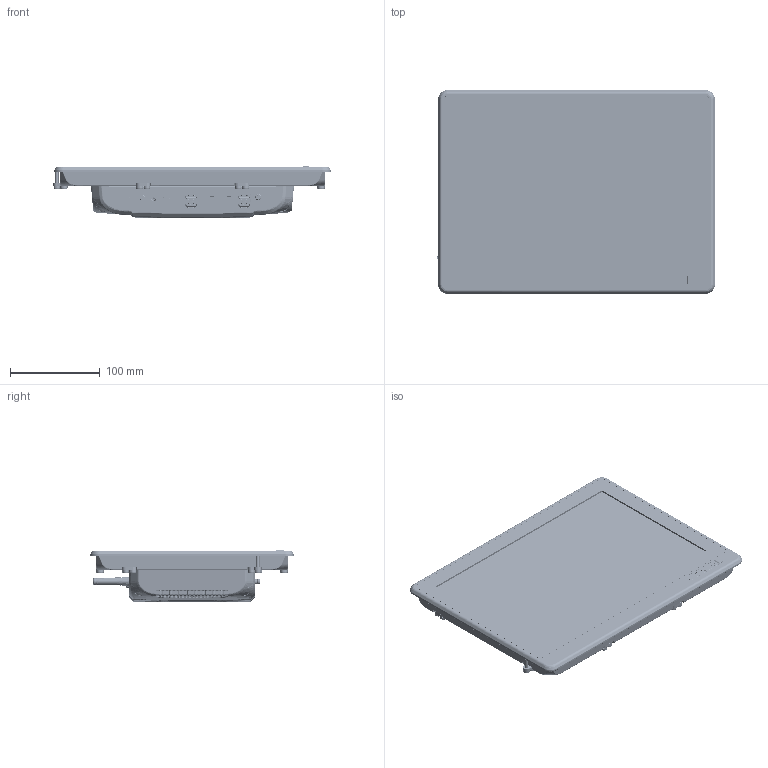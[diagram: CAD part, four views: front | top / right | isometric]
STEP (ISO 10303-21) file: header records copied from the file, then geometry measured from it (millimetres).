
FILE_DESCRIPTION (( 'STEP AP214' ), '1' );
FILE_NAME ('122.STEP', '2024-04-25T00:40:30', ( '' ), ( '' ), 'SwSTEP 2.0', 'SolidWorks 2018', '' );
FILE_SCHEMA (( 'AUTOMOTIVE_DESIGN' ));
Length unit declared in the file: millimetre
Products named in the file (1): 122
Bounding box: 309.35 x 226.8 x 58.5 mm (x, y, z)
Surface area: 763160.4 mm2 (no closed solid volume)
Topology: 0 solids, 365 shells, 25188 faces, 65247 edges, 41119 vertices
Faces by surface type: plane 15632, cylinder 5503, bspline 2595, torus 893, sphere 327, cone 238
Full cylindrical faces by diameter (mm): 0.6 x18, 0.8 x4, 1 x9, 1.1 x24, 1.2 x7, 2 x2, 2.2 x2, 2.3 x2, 2.5 x2, 2.6 x2, 2.975 x2, 3 x8, 3.136 x2, 3.2 x8, 3.3 x8, 3.5 x8, 4 x7, 4.2 x15, 4.5 x4, 4.9 x2, 5.9 x1, 6 x3, 6.5 x1, 7.306 x4, 7.6 x1, 8.1 x2, 8.2 x2, 8.429 x4
Entity records: 1146453 total; most frequent: CARTESIAN_POINT 269938, ORIENTED_EDGE 128700, DIRECTION 114718, EDGE_CURVE 64355, VECTOR 45170, LINE 45170, VERTEX_POINT 40983, AXIS2_PLACEMENT_3D 34774
